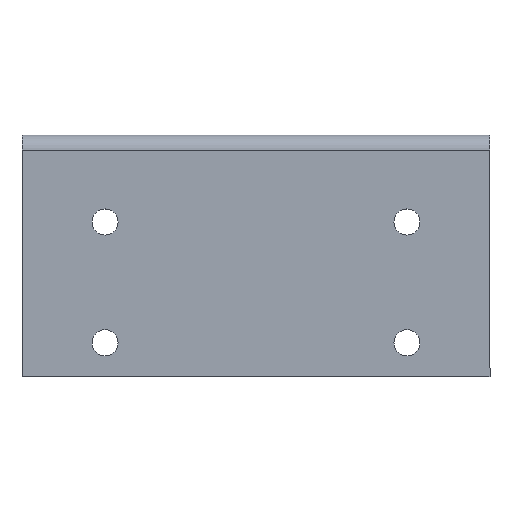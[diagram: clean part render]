
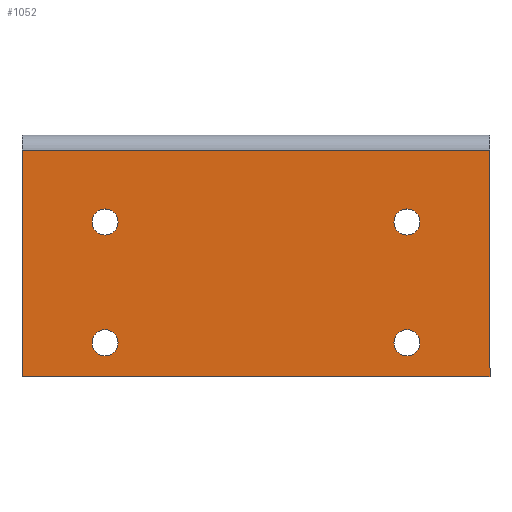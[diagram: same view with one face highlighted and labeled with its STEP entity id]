
A CAD part, top view. The second image highlights one B-rep face of the part: STEP entity #1052.
In plain terms, the highlighted planar face has unit normal (0, 0, 1).
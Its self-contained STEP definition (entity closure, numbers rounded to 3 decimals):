
#2 = DIRECTION ( 'NONE',  ( 0., 0., 1. ) ) ;
#25 = ORIENTED_EDGE ( 'NONE', *, *, #873, .F. ) ;
#49 = ORIENTED_EDGE ( 'NONE', *, *, #859, .F. ) ;
#70 = ORIENTED_EDGE ( 'NONE', *, *, #883, .F. ) ;
#86 = ORIENTED_EDGE ( 'NONE', *, *, #800, .F. ) ;
#113 = ORIENTED_EDGE ( 'NONE', *, *, #759, .T. ) ;
#117 = EDGE_LOOP ( 'NONE', ( #86, #167 ) ) ;
#166 = ORIENTED_EDGE ( 'NONE', *, *, #757, .F. ) ;
#167 = ORIENTED_EDGE ( 'NONE', *, *, #765, .F. ) ;
#176 = ORIENTED_EDGE ( 'NONE', *, *, #853, .F. ) ;
#218 = EDGE_LOOP ( 'NONE', ( #49, #228, #113, #229 ) ) ;
#219 = EDGE_LOOP ( 'NONE', ( #25, #176 ) ) ;
#228 = ORIENTED_EDGE ( 'NONE', *, *, #760, .T. ) ;
#229 = ORIENTED_EDGE ( 'NONE', *, *, #772, .F. ) ;
#250 = ORIENTED_EDGE ( 'NONE', *, *, #791, .F. ) ;
#256 = ORIENTED_EDGE ( 'NONE', *, *, #792, .F. ) ;
#289 = EDGE_LOOP ( 'NONE', ( #250, #166 ) ) ;
#293 = EDGE_LOOP ( 'NONE', ( #70, #256 ) ) ;
#340 = CARTESIAN_POINT ( 'NONE',  ( 22., 55., 0. ) ) ;
#345 = PLANE ( 'NONE',  #930 ) ;
#348 = DIRECTION ( 'NONE',  ( 0., 0., -1. ) ) ;
#349 = DIRECTION ( 'NONE',  ( 0., -1., 0. ) ) ;
#411 = CARTESIAN_POINT ( 'NONE',  ( -102., -9., 0. ) ) ;
#420 = CARTESIAN_POINT ( 'NONE',  ( -80., 3.45, 0. ) ) ;
#425 = CARTESIAN_POINT ( 'NONE',  ( -80., 28.55, 0. ) ) ;
#435 = CARTESIAN_POINT ( 'NONE',  ( 22., -9., 0. ) ) ;
#438 = CARTESIAN_POINT ( 'NONE',  ( 0., 35.45, 0. ) ) ;
#451 = CARTESIAN_POINT ( 'NONE',  ( 0., 3.45, 0. ) ) ;
#454 = CARTESIAN_POINT ( 'NONE',  ( -80., 35.45, 0. ) ) ;
#462 = CARTESIAN_POINT ( 'NONE',  ( 22., 51., 0. ) ) ;
#463 = CARTESIAN_POINT ( 'NONE',  ( -102., 51., 0. ) ) ;
#468 = CARTESIAN_POINT ( 'NONE',  ( -80., -3.45, 0. ) ) ;
#480 = CARTESIAN_POINT ( 'NONE',  ( 0., -3.45, 0. ) ) ;
#563 = FACE_BOUND ( 'NONE', #289, .T. ) ;
#564 = FACE_BOUND ( 'NONE', #219, .T. ) ;
#566 = FACE_BOUND ( 'NONE', #293, .T. ) ;
#568 = FACE_BOUND ( 'NONE', #117, .T. ) ;
#575 = FACE_OUTER_BOUND ( 'NONE', #218, .T. ) ;
#584 = VECTOR ( 'NONE', #1107, 1000. ) ;
#585 = CIRCLE ( 'NONE', #877, 3.45 ) ;
#606 = VECTOR ( 'NONE', #1078, 1000. ) ;
#608 = LINE ( 'NONE', #1446, #606 ) ;
#609 = CIRCLE ( 'NONE', #879, 3.45 ) ;
#610 = VECTOR ( 'NONE', #1077, 1000. ) ;
#611 = LINE ( 'NONE', #1076, #610 ) ;
#620 = LINE ( 'NONE', #1101, #584 ) ;
#665 = CIRCLE ( 'NONE', #918, 3.45 ) ;
#667 = CIRCLE ( 'NONE', #735, 3.45 ) ;
#671 = CIRCLE ( 'NONE', #979, 3.45 ) ;
#686 = VECTOR ( 'NONE', #1202, 1000. ) ;
#687 = CIRCLE ( 'NONE', #954, 3.45 ) ;
#689 = LINE ( 'NONE', #1201, #686 ) ;
#696 = CIRCLE ( 'NONE', #980, 3.45 ) ;
#702 = CIRCLE ( 'NONE', #967, 3.45 ) ;
#735 = AXIS2_PLACEMENT_3D ( 'NONE', #1146, #1149, #1150 ) ;
#757 = EDGE_CURVE ( 'NONE', #1401, #1015, #609, .T. ) ;
#759 = EDGE_CURVE ( 'NONE', #1426, #1380, #611, .T. ) ;
#760 = EDGE_CURVE ( 'NONE', #1425, #1426, #608, .T. ) ;
#765 = EDGE_CURVE ( 'NONE', #1417, #1386, #585, .T. ) ;
#772 = EDGE_CURVE ( 'NONE', #1396, #1380, #620, .T. ) ;
#791 = EDGE_CURVE ( 'NONE', #1015, #1401, #667, .T. ) ;
#792 = EDGE_CURVE ( 'NONE', #1414, #1456, #665, .T. ) ;
#800 = EDGE_CURVE ( 'NONE', #1386, #1417, #671, .T. ) ;
#853 = EDGE_CURVE ( 'NONE', #1381, #1431, #687, .T. ) ;
#859 = EDGE_CURVE ( 'NONE', #1425, #1396, #689, .T. ) ;
#873 = EDGE_CURVE ( 'NONE', #1431, #1381, #702, .T. ) ;
#877 = AXIS2_PLACEMENT_3D ( 'NONE', #1089, #1090, #1091 ) ;
#879 = AXIS2_PLACEMENT_3D ( 'NONE', #1025, #2, #1027 ) ;
#883 = EDGE_CURVE ( 'NONE', #1456, #1414, #696, .T. ) ;
#918 = AXIS2_PLACEMENT_3D ( 'NONE', #1151, #1152, #1153 ) ;
#930 = AXIS2_PLACEMENT_3D ( 'NONE', #340, #348, #349 ) ;
#954 = AXIS2_PLACEMENT_3D ( 'NONE', #1188, #1191, #1192 ) ;
#967 = AXIS2_PLACEMENT_3D ( 'NONE', #1198, #1211, #1212 ) ;
#979 = AXIS2_PLACEMENT_3D ( 'NONE', #1170, #1171, #1172 ) ;
#980 = AXIS2_PLACEMENT_3D ( 'NONE', #1210, #1223, #1224 ) ;
#1015 = VERTEX_POINT ( 'NONE', #1323 ) ;
#1025 = CARTESIAN_POINT ( 'NONE',  ( 0., 32., 0. ) ) ;
#1027 = DIRECTION ( 'NONE',  ( 0., -1., 0. ) ) ;
#1052 = ADVANCED_FACE ( 'NONE', ( #563, #568, #566, #564, #575 ), #345, .F. ) ;
#1076 = CARTESIAN_POINT ( 'NONE',  ( -102., 55., 0. ) ) ;
#1077 = DIRECTION ( 'NONE',  ( 0., -1., 0. ) ) ;
#1078 = DIRECTION ( 'NONE',  ( -1., 0., 0. ) ) ;
#1089 = CARTESIAN_POINT ( 'NONE',  ( -80., 32., 0. ) ) ;
#1090 = DIRECTION ( 'NONE',  ( 0., 0., 1. ) ) ;
#1091 = DIRECTION ( 'NONE',  ( 0., -1., 0. ) ) ;
#1101 = CARTESIAN_POINT ( 'NONE',  ( 22., -9., 0. ) ) ;
#1107 = DIRECTION ( 'NONE',  ( -1., 0., 0. ) ) ;
#1146 = CARTESIAN_POINT ( 'NONE',  ( 0., 32., 0. ) ) ;
#1149 = DIRECTION ( 'NONE',  ( 0., 0., 1. ) ) ;
#1150 = DIRECTION ( 'NONE',  ( 0., -1., 0. ) ) ;
#1151 = CARTESIAN_POINT ( 'NONE',  ( 0., 0., 0. ) ) ;
#1152 = DIRECTION ( 'NONE',  ( 0., 0., 1. ) ) ;
#1153 = DIRECTION ( 'NONE',  ( 0., -1., 0. ) ) ;
#1170 = CARTESIAN_POINT ( 'NONE',  ( -80., 32., 0. ) ) ;
#1171 = DIRECTION ( 'NONE',  ( 0., 0., 1. ) ) ;
#1172 = DIRECTION ( 'NONE',  ( 0., -1., 0. ) ) ;
#1188 = CARTESIAN_POINT ( 'NONE',  ( -80., 0., 0. ) ) ;
#1191 = DIRECTION ( 'NONE',  ( 0., 0., 1. ) ) ;
#1192 = DIRECTION ( 'NONE',  ( 0., -1., 0. ) ) ;
#1198 = CARTESIAN_POINT ( 'NONE',  ( -80., 0., 0. ) ) ;
#1201 = CARTESIAN_POINT ( 'NONE',  ( 22., 55., 0. ) ) ;
#1202 = DIRECTION ( 'NONE',  ( 0., -1., 0. ) ) ;
#1210 = CARTESIAN_POINT ( 'NONE',  ( 0., 0., 0. ) ) ;
#1211 = DIRECTION ( 'NONE',  ( 0., 0., 1. ) ) ;
#1212 = DIRECTION ( 'NONE',  ( 0., -1., 0. ) ) ;
#1223 = DIRECTION ( 'NONE',  ( 0., 0., 1. ) ) ;
#1224 = DIRECTION ( 'NONE',  ( 0., -1., 0. ) ) ;
#1323 = CARTESIAN_POINT ( 'NONE',  ( 0., 28.55, 0. ) ) ;
#1380 = VERTEX_POINT ( 'NONE', #411 ) ;
#1381 = VERTEX_POINT ( 'NONE', #420 ) ;
#1386 = VERTEX_POINT ( 'NONE', #425 ) ;
#1396 = VERTEX_POINT ( 'NONE', #435 ) ;
#1401 = VERTEX_POINT ( 'NONE', #438 ) ;
#1414 = VERTEX_POINT ( 'NONE', #451 ) ;
#1417 = VERTEX_POINT ( 'NONE', #454 ) ;
#1425 = VERTEX_POINT ( 'NONE', #462 ) ;
#1426 = VERTEX_POINT ( 'NONE', #463 ) ;
#1431 = VERTEX_POINT ( 'NONE', #468 ) ;
#1446 = CARTESIAN_POINT ( 'NONE',  ( 22., 51., 0. ) ) ;
#1456 = VERTEX_POINT ( 'NONE', #480 ) ;
